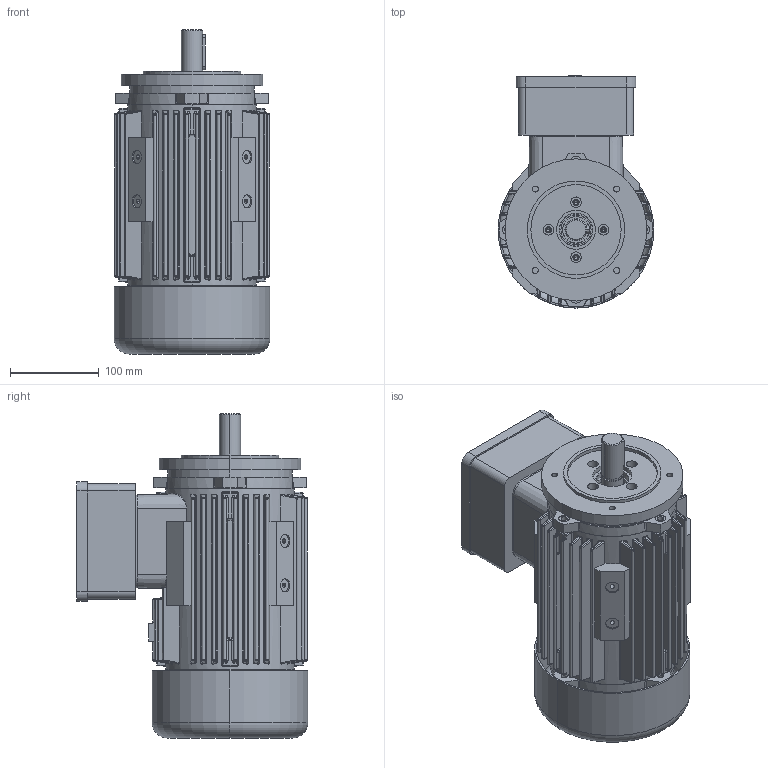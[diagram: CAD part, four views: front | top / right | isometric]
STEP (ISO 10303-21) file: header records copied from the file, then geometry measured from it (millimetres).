
FILE_DESCRIPTION (( 'STEP AP214' ), '1' );
FILE_NAME ('20.18364-D 7AZ 90 B14 large STANDK.STEP', '2018-04-09T12:48:49', ( '' ), ( '' ), 'SwSTEP 2.0', 'SolidWorks 2017', '' );
FILE_SCHEMA (( 'AUTOMOTIVE_DESIGN' ));
Length unit declared in the file: millimetre
Products named in the file (1): 20.18364-D 7AZ 90 B14 large STANDK
Bounding box: 176 x 261.8 x 366 mm (x, y, z)
Volume: 2542759.3 mm3; surface area: 834261 mm2
Topology: 10 solids, 10 shells, 2334 faces, 5719 edges, 3341 vertices
Faces by surface type: cylinder 814, bspline 729, plane 560, torus 105, cone 100, sphere 26
Entity records: 120850 total; most frequent: CARTESIAN_POINT 47232, ORIENTED_EDGE 11078, DIRECTION 9051, EDGE_CURVE 5539, AXIS2_PLACEMENT_3D 3517, VERTEX_POINT 3341, EDGE_LOOP 2530, FACE_OUTER_BOUND 2334
